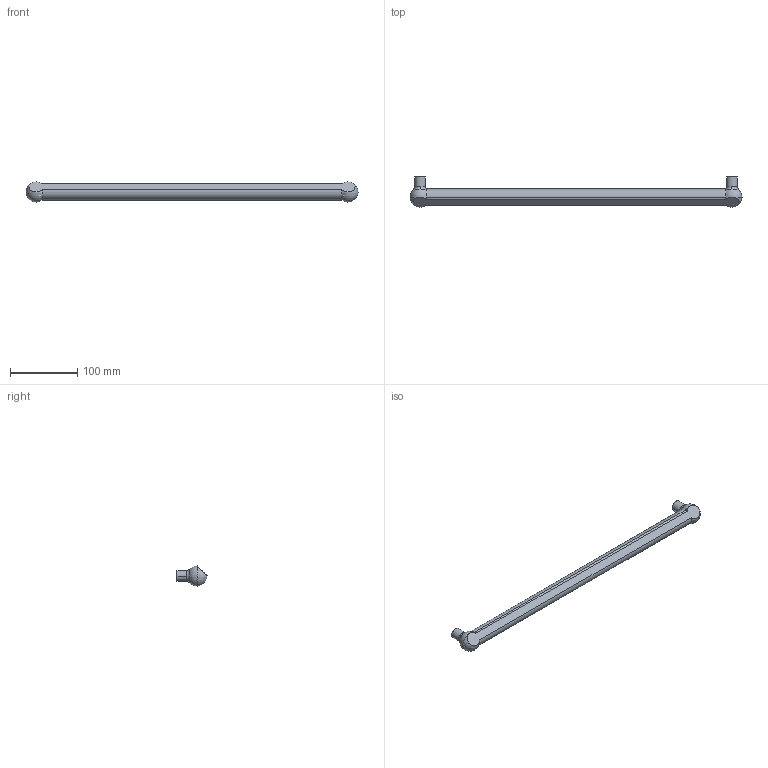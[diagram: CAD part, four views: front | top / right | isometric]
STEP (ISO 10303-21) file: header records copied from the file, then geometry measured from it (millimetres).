
FILE_DESCRIPTION( ( '' ), '1' );
FILE_NAME( 'D:/1.AUTOCAD EXPORT/Group 10/sheet_10_1/9105770.stp', '2013-10-18T08:22:42', ( '' ), ( '' ), ' ', ' ', ' ' );
FILE_SCHEMA( ( 'automotive_design' ) );
Length unit declared in the file: millimetre
Products named in the file (1): 1
Bounding box: 495 x 45 x 30 mm (x, y, z)
Volume: 227578.5 mm3; surface area: 39788.7 mm2
Topology: 1 solids, 1 shells, 26 faces, 72 edges, 40 vertices
Faces by surface type: cylinder 11, sphere 6, plane 5, torus 4
Entity records: 1548 total; most frequent: DIRECTION 162, CARTESIAN_POINT 157, STYLED_ITEM 129, PRESENTATION_STYLE_ASSIGNMENT 129, COLOUR_RGB 129, ORIENTED_EDGE 124, AXIS2_PLACEMENT_3D 75, EDGE_CURVE 62
